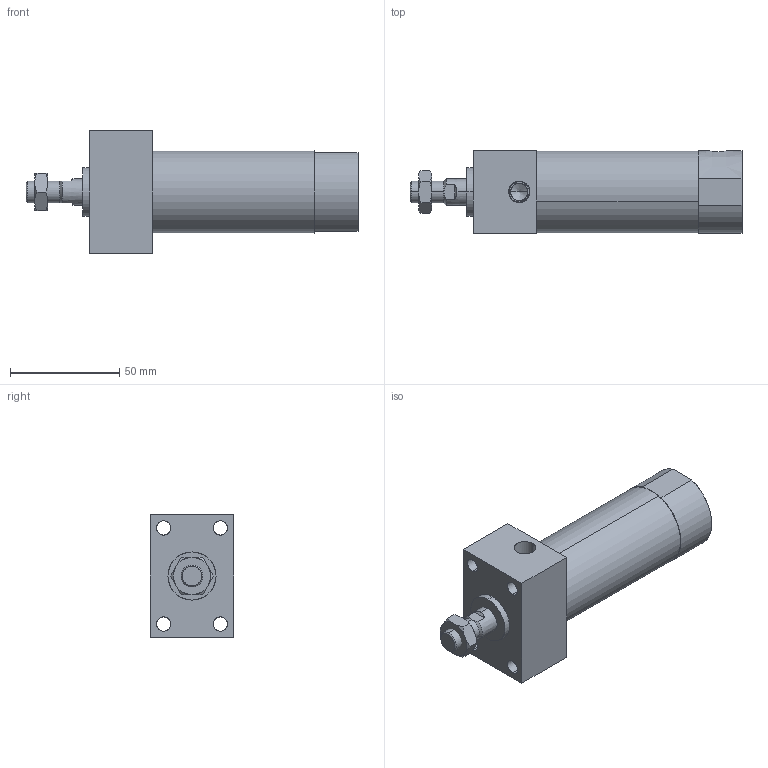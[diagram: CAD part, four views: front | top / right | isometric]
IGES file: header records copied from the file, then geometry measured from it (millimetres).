
Start section: SolidWorks IGES file using analytic representation for surfaces
Global section: file name: C:\Users\Toshiba\Desktop\JGEF2-32-25.IGS; native system: SolidWorks 2014; preprocessor: SolidWorks 2014; author: Toshiba; date: 160420.150527; units: millimetre
Bounding box: 152 x 38 x 56 mm (x, y, z)
Surface area: 30311.7 mm2 (no closed solid volume)
Topology: 0 solids, 0 shells, 83 faces, 1536 edges, 1530 vertices
Faces by surface type: revolution 42, bspline 41
